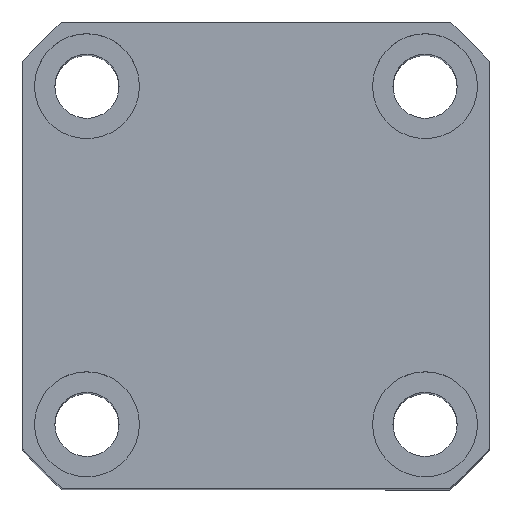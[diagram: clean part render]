
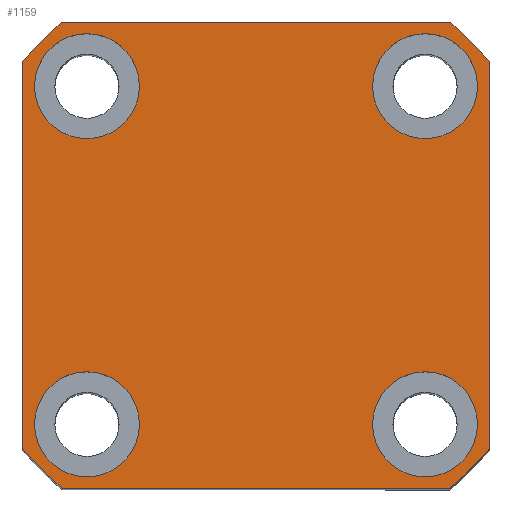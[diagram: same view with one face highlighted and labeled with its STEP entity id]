
A CAD part, top view. The second image highlights one B-rep face of the part: STEP entity #1159.
In plain terms, the highlighted planar face has unit normal (0, 0, 1).
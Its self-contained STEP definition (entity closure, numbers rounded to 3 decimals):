
#14 = CARTESIAN_POINT ( 'NONE',  ( -29., 29., 80. ) ) ;
#78 = CARTESIAN_POINT ( 'NONE',  ( 38., 29., 80. ) ) ;
#149 = CIRCLE ( 'NONE', #1463, 9. ) ;
#150 = AXIS2_PLACEMENT_3D ( 'NONE', #7264, #4659, #8806 ) ;
#166 = CARTESIAN_POINT ( 'NONE',  ( 0., 0., 80. ) ) ;
#244 = DIRECTION ( 'NONE',  ( 0., -1., 0. ) ) ;
#262 = CARTESIAN_POINT ( 'NONE',  ( 40., -33.226, 80. ) ) ;
#446 = CARTESIAN_POINT ( 'NONE',  ( 20., -29., 80. ) ) ;
#468 = CIRCLE ( 'NONE', #3076, 52. ) ;
#496 = EDGE_CURVE ( 'NONE', #6216, #6080, #5259, .T. ) ;
#652 = DIRECTION ( 'NONE',  ( 0., 0., 1. ) ) ;
#701 = DIRECTION ( 'NONE',  ( 1., 0., 0. ) ) ;
#864 = VECTOR ( 'NONE', #8589, 1000. ) ;
#935 = CIRCLE ( 'NONE', #150, 52. ) ;
#983 = ORIENTED_EDGE ( 'NONE', *, *, #5873, .T. ) ;
#988 = ORIENTED_EDGE ( 'NONE', *, *, #2253, .T. ) ;
#1002 = ORIENTED_EDGE ( 'NONE', *, *, #3148, .T. ) ;
#1159 = ADVANCED_FACE ( 'NONE', ( #7612, #2763, #1862, #5627, #2238 ), #1838, .T. ) ;
#1289 = VERTEX_POINT ( 'NONE', #446 ) ;
#1463 = AXIS2_PLACEMENT_3D ( 'NONE', #5315, #7148, #10429 ) ;
#1499 = ORIENTED_EDGE ( 'NONE', *, *, #4275, .F. ) ;
#1534 = VERTEX_POINT ( 'NONE', #78 ) ;
#1609 = CARTESIAN_POINT ( 'NONE',  ( 29., 29., 80. ) ) ;
#1805 = DIRECTION ( 'NONE',  ( 0., 0., 1. ) ) ;
#1817 = DIRECTION ( 'NONE',  ( 0., 0., 1. ) ) ;
#1838 = PLANE ( 'NONE',  #7820 ) ;
#1862 = FACE_BOUND ( 'NONE', #4026, .T. ) ;
#1981 = CIRCLE ( 'NONE', #2855, 9. ) ;
#2213 = CARTESIAN_POINT ( 'NONE',  ( 33.226, 40., 80. ) ) ;
#2227 = CARTESIAN_POINT ( 'NONE',  ( 0., 0., 80. ) ) ;
#2238 = FACE_OUTER_BOUND ( 'NONE', #10404, .T. ) ;
#2253 = EDGE_CURVE ( 'NONE', #8034, #10048, #3159, .T. ) ;
#2274 = EDGE_LOOP ( 'NONE', ( #5586, #10544 ) ) ;
#2440 = DIRECTION ( 'NONE',  ( 0., 0., 1. ) ) ;
#2587 = ORIENTED_EDGE ( 'NONE', *, *, #4976, .T. ) ;
#2596 = DIRECTION ( 'NONE',  ( 1., 0., 0. ) ) ;
#2692 = CIRCLE ( 'NONE', #2708, 9. ) ;
#2708 = AXIS2_PLACEMENT_3D ( 'NONE', #1609, #4770, #4007 ) ;
#2763 = FACE_BOUND ( 'NONE', #2274, .T. ) ;
#2766 = CARTESIAN_POINT ( 'NONE',  ( 40., 33.226, 80. ) ) ;
#2778 = CIRCLE ( 'NONE', #8745, 9. ) ;
#2855 = AXIS2_PLACEMENT_3D ( 'NONE', #9230, #2440, #7487 ) ;
#2894 = CARTESIAN_POINT ( 'NONE',  ( -38., -29., 80. ) ) ;
#2910 = CARTESIAN_POINT ( 'NONE',  ( 33.226, -40., 80. ) ) ;
#2950 = CARTESIAN_POINT ( 'NONE',  ( -33.226, 40., 80. ) ) ;
#2975 = CARTESIAN_POINT ( 'NONE',  ( 38., -29., 80. ) ) ;
#3076 = AXIS2_PLACEMENT_3D ( 'NONE', #6128, #6232, #10462 ) ;
#3148 = EDGE_CURVE ( 'NONE', #10048, #9523, #10377, .T. ) ;
#3159 = LINE ( 'NONE', #6291, #6294 ) ;
#3184 = CIRCLE ( 'NONE', #8269, 52. ) ;
#3274 = EDGE_CURVE ( 'NONE', #9881, #5272, #1981, .T. ) ;
#3500 = AXIS2_PLACEMENT_3D ( 'NONE', #7993, #10545, #3790 ) ;
#3790 = DIRECTION ( 'NONE',  ( 1., 0., 0. ) ) ;
#3808 = CARTESIAN_POINT ( 'NONE',  ( -29., 29., 80. ) ) ;
#3818 = CARTESIAN_POINT ( 'NONE',  ( 0., 0., 80. ) ) ;
#4007 = DIRECTION ( 'NONE',  ( 1., 0., 0. ) ) ;
#4026 = EDGE_LOOP ( 'NONE', ( #9754, #5056 ) ) ;
#4275 = EDGE_CURVE ( 'NONE', #6196, #1289, #7072, .T. ) ;
#4409 = EDGE_LOOP ( 'NONE', ( #5390, #9989 ) ) ;
#4505 = EDGE_CURVE ( 'NONE', #1289, #6196, #149, .T. ) ;
#4506 = CIRCLE ( 'NONE', #9407, 9. ) ;
#4538 = DIRECTION ( 'NONE',  ( 1., 0., 0. ) ) ;
#4646 = DIRECTION ( 'NONE',  ( 0., 0., 1. ) ) ;
#4659 = DIRECTION ( 'NONE',  ( 0., 0., 1. ) ) ;
#4726 = CARTESIAN_POINT ( 'NONE',  ( -33.226, -40., 80. ) ) ;
#4750 = CIRCLE ( 'NONE', #7833, 9. ) ;
#4770 = DIRECTION ( 'NONE',  ( 0., 0., 1. ) ) ;
#4976 = EDGE_CURVE ( 'NONE', #10276, #8034, #935, .T. ) ;
#5056 = ORIENTED_EDGE ( 'NONE', *, *, #8108, .F. ) ;
#5072 = VERTEX_POINT ( 'NONE', #4726 ) ;
#5124 = VECTOR ( 'NONE', #244, 1000. ) ;
#5243 = EDGE_CURVE ( 'NONE', #9809, #9801, #7442, .T. ) ;
#5259 = LINE ( 'NONE', #10844, #5124 ) ;
#5272 = VERTEX_POINT ( 'NONE', #2894 ) ;
#5285 = ORIENTED_EDGE ( 'NONE', *, *, #6504, .T. ) ;
#5315 = CARTESIAN_POINT ( 'NONE',  ( 29., -29., 80. ) ) ;
#5366 = AXIS2_PLACEMENT_3D ( 'NONE', #14, #8372, #5369 ) ;
#5369 = DIRECTION ( 'NONE',  ( 1., 0., 0. ) ) ;
#5390 = ORIENTED_EDGE ( 'NONE', *, *, #6663, .F. ) ;
#5438 = DIRECTION ( 'NONE',  ( 1., 0., 0. ) ) ;
#5586 = ORIENTED_EDGE ( 'NONE', *, *, #3274, .F. ) ;
#5627 = FACE_BOUND ( 'NONE', #4409, .T. ) ;
#5688 = CARTESIAN_POINT ( 'NONE',  ( 20., 29., 80. ) ) ;
#5694 = DIRECTION ( 'NONE',  ( 0., 0., 1. ) ) ;
#5793 = DIRECTION ( 'NONE',  ( 1., 0., 0. ) ) ;
#5832 = ORIENTED_EDGE ( 'NONE', *, *, #5850, .T. ) ;
#5850 = EDGE_CURVE ( 'NONE', #10267, #6216, #468, .T. ) ;
#5868 = CARTESIAN_POINT ( 'NONE',  ( -20., -29., 80. ) ) ;
#5873 = EDGE_CURVE ( 'NONE', #9523, #10267, #10811, .T. ) ;
#5978 = ORIENTED_EDGE ( 'NONE', *, *, #6187, .T. ) ;
#5998 = DIRECTION ( 'NONE',  ( 1., 0., 0. ) ) ;
#6080 = VERTEX_POINT ( 'NONE', #7153 ) ;
#6098 = CARTESIAN_POINT ( 'NONE',  ( -33.226, 40., 80. ) ) ;
#6128 = CARTESIAN_POINT ( 'NONE',  ( 0., 0., 80. ) ) ;
#6187 = EDGE_CURVE ( 'NONE', #6080, #5072, #3184, .T. ) ;
#6196 = VERTEX_POINT ( 'NONE', #2975 ) ;
#6216 = VERTEX_POINT ( 'NONE', #8211 ) ;
#6232 = DIRECTION ( 'NONE',  ( 0., 0., 1. ) ) ;
#6291 = CARTESIAN_POINT ( 'NONE',  ( 40., 33.226, 80. ) ) ;
#6294 = VECTOR ( 'NONE', #8794, 1000. ) ;
#6449 = LINE ( 'NONE', #9400, #864 ) ;
#6467 = VECTOR ( 'NONE', #7046, 1000. ) ;
#6504 = EDGE_CURVE ( 'NONE', #5072, #10276, #6449, .T. ) ;
#6663 = EDGE_CURVE ( 'NONE', #1534, #8832, #4750, .T. ) ;
#6781 = CARTESIAN_POINT ( 'NONE',  ( -20., 29., 80. ) ) ;
#7046 = DIRECTION ( 'NONE',  ( -1., 0., 0. ) ) ;
#7072 = CIRCLE ( 'NONE', #3500, 9. ) ;
#7148 = DIRECTION ( 'NONE',  ( 0., 0., 1. ) ) ;
#7153 = CARTESIAN_POINT ( 'NONE',  ( -40., -33.226, 80. ) ) ;
#7264 = CARTESIAN_POINT ( 'NONE',  ( 0., 0., 80. ) ) ;
#7442 = CIRCLE ( 'NONE', #5366, 9. ) ;
#7487 = DIRECTION ( 'NONE',  ( 1., 0., 0. ) ) ;
#7612 = FACE_BOUND ( 'NONE', #8695, .T. ) ;
#7810 = ORIENTED_EDGE ( 'NONE', *, *, #4505, .F. ) ;
#7820 = AXIS2_PLACEMENT_3D ( 'NONE', #166, #1805, #2596 ) ;
#7833 = AXIS2_PLACEMENT_3D ( 'NONE', #8263, #5694, #701 ) ;
#7993 = CARTESIAN_POINT ( 'NONE',  ( 29., -29., 80. ) ) ;
#8034 = VERTEX_POINT ( 'NONE', #262 ) ;
#8108 = EDGE_CURVE ( 'NONE', #9801, #9809, #2778, .T. ) ;
#8211 = CARTESIAN_POINT ( 'NONE',  ( -40., 33.226, 80. ) ) ;
#8245 = CARTESIAN_POINT ( 'NONE',  ( -38., 29., 80. ) ) ;
#8263 = CARTESIAN_POINT ( 'NONE',  ( 29., 29., 80. ) ) ;
#8269 = AXIS2_PLACEMENT_3D ( 'NONE', #3818, #652, #5793 ) ;
#8372 = DIRECTION ( 'NONE',  ( 0., 0., 1. ) ) ;
#8501 = CARTESIAN_POINT ( 'NONE',  ( -29., -29., 80. ) ) ;
#8589 = DIRECTION ( 'NONE',  ( 1., 0., 0. ) ) ;
#8695 = EDGE_LOOP ( 'NONE', ( #1499, #7810 ) ) ;
#8745 = AXIS2_PLACEMENT_3D ( 'NONE', #3808, #4646, #4538 ) ;
#8794 = DIRECTION ( 'NONE',  ( 0., 1., 0. ) ) ;
#8806 = DIRECTION ( 'NONE',  ( 1., 0., 0. ) ) ;
#8825 = EDGE_CURVE ( 'NONE', #8832, #1534, #2692, .T. ) ;
#8832 = VERTEX_POINT ( 'NONE', #5688 ) ;
#9230 = CARTESIAN_POINT ( 'NONE',  ( -29., -29., 80. ) ) ;
#9324 = ORIENTED_EDGE ( 'NONE', *, *, #496, .T. ) ;
#9400 = CARTESIAN_POINT ( 'NONE',  ( -33.226, -40., 80. ) ) ;
#9407 = AXIS2_PLACEMENT_3D ( 'NONE', #8501, #1817, #5998 ) ;
#9523 = VERTEX_POINT ( 'NONE', #2213 ) ;
#9754 = ORIENTED_EDGE ( 'NONE', *, *, #5243, .F. ) ;
#9801 = VERTEX_POINT ( 'NONE', #8245 ) ;
#9809 = VERTEX_POINT ( 'NONE', #6781 ) ;
#9814 = EDGE_CURVE ( 'NONE', #5272, #9881, #4506, .T. ) ;
#9881 = VERTEX_POINT ( 'NONE', #5868 ) ;
#9989 = ORIENTED_EDGE ( 'NONE', *, *, #8825, .F. ) ;
#10048 = VERTEX_POINT ( 'NONE', #2766 ) ;
#10267 = VERTEX_POINT ( 'NONE', #2950 ) ;
#10276 = VERTEX_POINT ( 'NONE', #2910 ) ;
#10377 = CIRCLE ( 'NONE', #10720, 52. ) ;
#10404 = EDGE_LOOP ( 'NONE', ( #5832, #9324, #5978, #5285, #2587, #988, #1002, #983 ) ) ;
#10429 = DIRECTION ( 'NONE',  ( 1., 0., 0. ) ) ;
#10462 = DIRECTION ( 'NONE',  ( 1., 0., 0. ) ) ;
#10474 = DIRECTION ( 'NONE',  ( 0., 0., 1. ) ) ;
#10544 = ORIENTED_EDGE ( 'NONE', *, *, #9814, .F. ) ;
#10545 = DIRECTION ( 'NONE',  ( 0., 0., 1. ) ) ;
#10720 = AXIS2_PLACEMENT_3D ( 'NONE', #2227, #10474, #5438 ) ;
#10811 = LINE ( 'NONE', #6098, #6467 ) ;
#10844 = CARTESIAN_POINT ( 'NONE',  ( -40., 33.226, 80. ) ) ;
